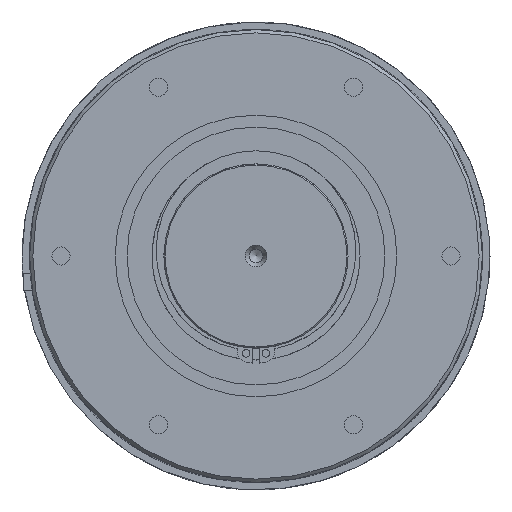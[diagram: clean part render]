
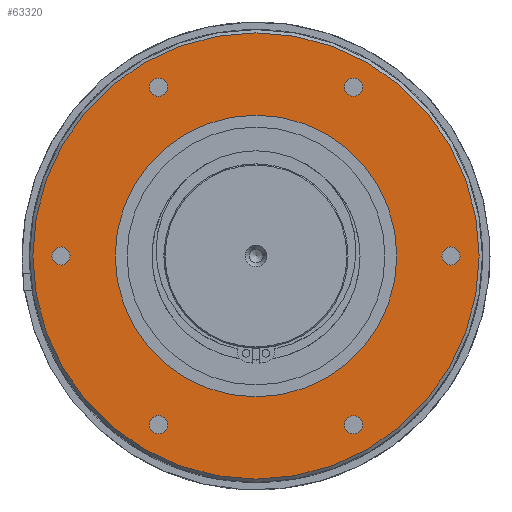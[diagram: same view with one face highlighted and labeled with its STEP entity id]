
A CAD part, left-side view. The second image highlights one B-rep face of the part: STEP entity #63320.
In plain terms, the highlighted planar face has unit normal (-1, 0, 0).
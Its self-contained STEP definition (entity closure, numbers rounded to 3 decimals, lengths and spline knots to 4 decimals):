
#1065=FACE_BOUND('',#11128,.T.);
#1066=FACE_BOUND('',#11129,.T.);
#1067=FACE_BOUND('',#11130,.T.);
#1068=FACE_BOUND('',#11131,.T.);
#1069=FACE_BOUND('',#11132,.T.);
#1070=FACE_BOUND('',#11133,.T.);
#1071=FACE_BOUND('',#11134,.T.);
#1202=PLANE('',#67890);
#7793=FACE_OUTER_BOUND('',#11127,.T.);
#11127=EDGE_LOOP('',(#41187));
#11128=EDGE_LOOP('',(#41188));
#11129=EDGE_LOOP('',(#41189));
#11130=EDGE_LOOP('',(#41190));
#11131=EDGE_LOOP('',(#41191));
#11132=EDGE_LOOP('',(#41192));
#11133=EDGE_LOOP('',(#41193));
#11134=EDGE_LOOP('',(#41194));
#20634=CIRCLE('',#66687,4.0551);
#20935=CIRCLE('',#67891,2.5591);
#20936=CIRCLE('',#67892,0.1649);
#20937=CIRCLE('',#67893,0.1649);
#20938=CIRCLE('',#67894,0.1649);
#20939=CIRCLE('',#67895,0.1649);
#20940=CIRCLE('',#67896,0.1649);
#20941=CIRCLE('',#67897,0.1649);
#23291=VERTEX_POINT('',#98504);
#24493=VERTEX_POINT('',#100912);
#24494=VERTEX_POINT('',#100914);
#24495=VERTEX_POINT('',#100916);
#24496=VERTEX_POINT('',#100918);
#24497=VERTEX_POINT('',#100920);
#24498=VERTEX_POINT('',#100922);
#24499=VERTEX_POINT('',#100924);
#29989=EDGE_CURVE('',#23291,#23291,#20634,.T.);
#31192=EDGE_CURVE('',#24493,#24493,#20935,.T.);
#31193=EDGE_CURVE('',#24494,#24494,#20936,.T.);
#31194=EDGE_CURVE('',#24495,#24495,#20937,.T.);
#31195=EDGE_CURVE('',#24496,#24496,#20938,.T.);
#31196=EDGE_CURVE('',#24497,#24497,#20939,.T.);
#31197=EDGE_CURVE('',#24498,#24498,#20940,.T.);
#31198=EDGE_CURVE('',#24499,#24499,#20941,.T.);
#41187=ORIENTED_EDGE('',*,*,#29989,.F.);
#41188=ORIENTED_EDGE('',*,*,#31192,.T.);
#41189=ORIENTED_EDGE('',*,*,#31193,.T.);
#41190=ORIENTED_EDGE('',*,*,#31194,.T.);
#41191=ORIENTED_EDGE('',*,*,#31195,.T.);
#41192=ORIENTED_EDGE('',*,*,#31196,.T.);
#41193=ORIENTED_EDGE('',*,*,#31197,.T.);
#41194=ORIENTED_EDGE('',*,*,#31198,.T.);
#63320=ADVANCED_FACE('',(#7793,#1065,#1066,#1067,#1068,#1069,#1070,#1071),
#1202,.T.);
#66687=AXIS2_PLACEMENT_3D('',#98506,#76291,#76292);
#67890=AXIS2_PLACEMENT_3D('',#100911,#78698,#78699);
#67891=AXIS2_PLACEMENT_3D('',#100913,#78700,#78701);
#67892=AXIS2_PLACEMENT_3D('',#100915,#78702,#78703);
#67893=AXIS2_PLACEMENT_3D('',#100917,#78704,#78705);
#67894=AXIS2_PLACEMENT_3D('',#100919,#78706,#78707);
#67895=AXIS2_PLACEMENT_3D('',#100921,#78708,#78709);
#67896=AXIS2_PLACEMENT_3D('',#100923,#78710,#78711);
#67897=AXIS2_PLACEMENT_3D('',#100925,#78712,#78713);
#76291=DIRECTION('center_axis',(1.,0.,0.));
#76292=DIRECTION('ref_axis',(0.,-1.,0.));
#78698=DIRECTION('center_axis',(-1.,0.,0.));
#78699=DIRECTION('ref_axis',(0.,0.,1.));
#78700=DIRECTION('center_axis',(1.,0.,0.));
#78701=DIRECTION('ref_axis',(0.,1.,0.));
#78702=DIRECTION('center_axis',(1.,0.,0.));
#78703=DIRECTION('ref_axis',(0.,0.,1.));
#78704=DIRECTION('center_axis',(1.,0.,0.));
#78705=DIRECTION('ref_axis',(0.,0.,1.));
#78706=DIRECTION('center_axis',(1.,0.,0.));
#78707=DIRECTION('ref_axis',(0.,0.,1.));
#78708=DIRECTION('center_axis',(1.,0.,0.));
#78709=DIRECTION('ref_axis',(0.,0.,1.));
#78710=DIRECTION('center_axis',(1.,0.,0.));
#78711=DIRECTION('ref_axis',(0.,0.,1.));
#78712=DIRECTION('center_axis',(1.,0.,0.));
#78713=DIRECTION('ref_axis',(0.,0.,1.));
#98504=CARTESIAN_POINT('',(-2.126,4.0551,0.));
#98506=CARTESIAN_POINT('Origin',(-2.126,0.,0.));
#100911=CARTESIAN_POINT('Origin',(-2.126,3.3366,0.));
#100912=CARTESIAN_POINT('',(-2.126,-2.5591,0.));
#100913=CARTESIAN_POINT('Origin',(-2.126,0.,0.));
#100914=CARTESIAN_POINT('',(-2.126,3.5433,-0.1649));
#100915=CARTESIAN_POINT('Origin',(-2.126,3.5433,0.));
#100916=CARTESIAN_POINT('',(-2.126,1.7717,-3.2335));
#100917=CARTESIAN_POINT('Origin',(-2.126,1.7717,-3.0686));
#100918=CARTESIAN_POINT('',(-2.126,-1.7717,-3.2335));
#100919=CARTESIAN_POINT('Origin',(-2.126,-1.7717,-3.0686));
#100920=CARTESIAN_POINT('',(-2.126,-3.5433,-0.1649));
#100921=CARTESIAN_POINT('Origin',(-2.126,-3.5433,0.));
#100922=CARTESIAN_POINT('',(-2.126,-1.7717,2.9037));
#100923=CARTESIAN_POINT('Origin',(-2.126,-1.7717,3.0686));
#100924=CARTESIAN_POINT('',(-2.126,1.7717,2.9037));
#100925=CARTESIAN_POINT('Origin',(-2.126,1.7717,3.0686));
